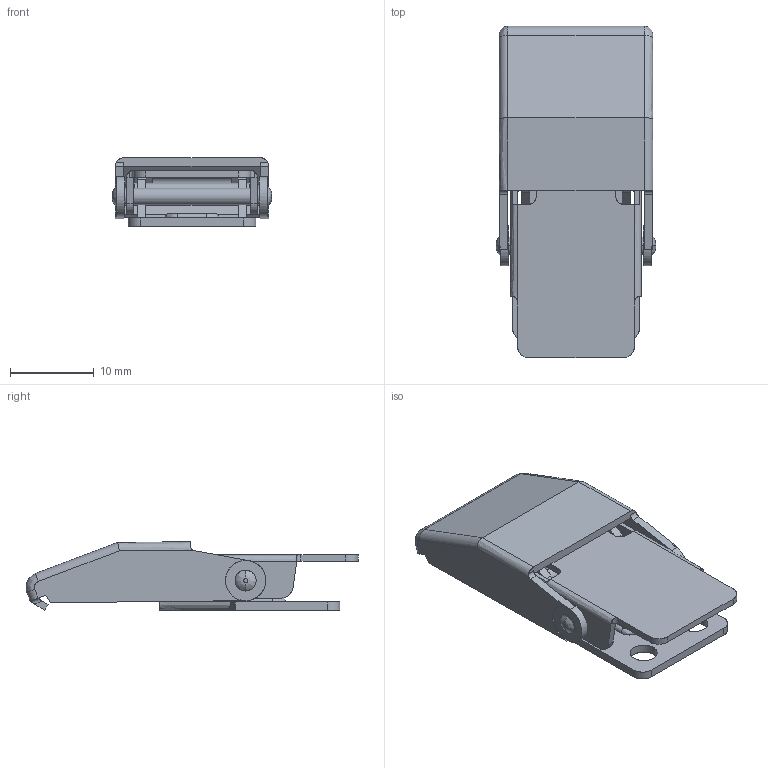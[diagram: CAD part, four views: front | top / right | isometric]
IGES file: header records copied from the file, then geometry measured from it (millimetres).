
Start section: SolidWorks IGES FILE using analytic representation for surfaces
Global section: file name: C:\Documents and Settings\lecoutey\Bureau\GO 17\GO 17.IGS; native system: SolidWorks 2004 by SolidWorks Corporation; preprocessor: Version 5.3; author: lecoutey; date: 050329.093116; units: millimetre
Bounding box: 19 x 39.6 x 8.18 mm (x, y, z)
Surface area: 3614.6 mm2 (no closed solid volume)
Topology: 0 solids, 0 shells, 211 faces, 2788 edges, 2758 vertices
Faces by surface type: revolution 111, bspline 100
